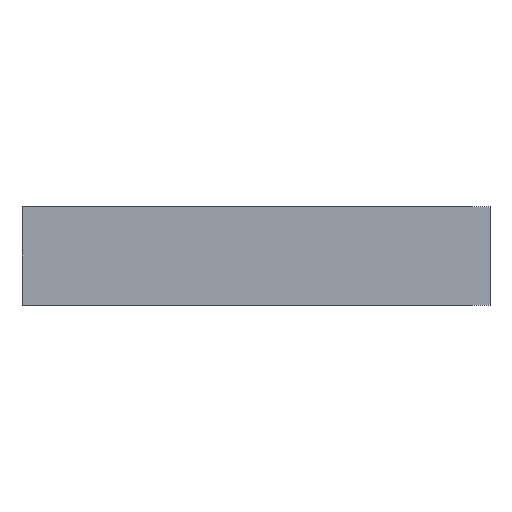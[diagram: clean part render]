
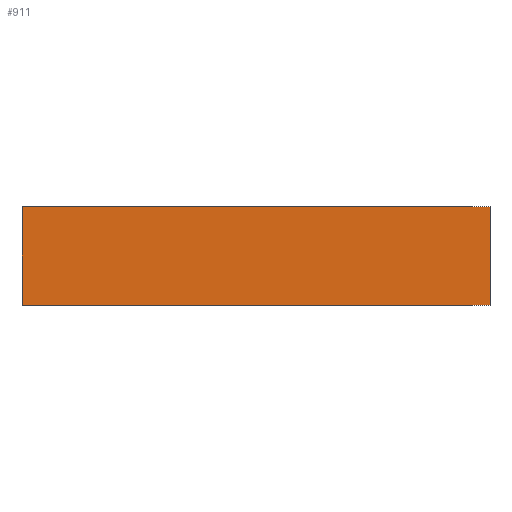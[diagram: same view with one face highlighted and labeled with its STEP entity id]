
A CAD part, front view. The second image highlights one B-rep face of the part: STEP entity #911.
In plain terms, the highlighted planar face has unit normal (0, -1, 0).
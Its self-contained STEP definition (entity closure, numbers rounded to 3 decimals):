
#103 = VECTOR ( 'NONE', #966, 1000. ) ;
#108 = LINE ( 'NONE', #963, #103 ) ;
#112 = VECTOR ( 'NONE', #956, 1000. ) ;
#113 = LINE ( 'NONE', #955, #112 ) ;
#119 = VECTOR ( 'NONE', #950, 1000. ) ;
#124 = LINE ( 'NONE', #947, #119 ) ;
#139 = ORIENTED_EDGE ( 'NONE', *, *, #420, .F. ) ;
#229 = ORIENTED_EDGE ( 'NONE', *, *, #424, .F. ) ;
#351 = EDGE_LOOP ( 'NONE', ( #354, #139, #229, #384 ) ) ;
#354 = ORIENTED_EDGE ( 'NONE', *, *, #488, .T. ) ;
#384 = ORIENTED_EDGE ( 'NONE', *, *, #429, .T. ) ;
#420 = EDGE_CURVE ( 'NONE', #888, #892, #124, .T. ) ;
#424 = EDGE_CURVE ( 'NONE', #891, #888, #113, .T. ) ;
#429 = EDGE_CURVE ( 'NONE', #891, #885, #108, .T. ) ;
#488 = EDGE_CURVE ( 'NONE', #885, #892, #775, .T. ) ;
#531 = AXIS2_PLACEMENT_3D ( 'NONE', #591, #597, #598 ) ;
#588 = PLANE ( 'NONE',  #531 ) ;
#591 = CARTESIAN_POINT ( 'NONE',  ( -154., 0., 65. ) ) ;
#597 = DIRECTION ( 'NONE',  ( 0., 1., 0. ) ) ;
#598 = DIRECTION ( 'NONE',  ( -1., 0., 0. ) ) ;
#763 = FACE_OUTER_BOUND ( 'NONE', #351, .T. ) ;
#775 = LINE ( 'NONE', #1081, #783 ) ;
#783 = VECTOR ( 'NONE', #1082, 1000. ) ;
#885 = VERTEX_POINT ( 'NONE', #1201 ) ;
#888 = VERTEX_POINT ( 'NONE', #1204 ) ;
#891 = VERTEX_POINT ( 'NONE', #1207 ) ;
#892 = VERTEX_POINT ( 'NONE', #1208 ) ;
#911 = ADVANCED_FACE ( 'NONE', ( #763 ), #588, .F. ) ;
#947 = CARTESIAN_POINT ( 'NONE',  ( 154., 0., 65. ) ) ;
#950 = DIRECTION ( 'NONE',  ( 0., 0., -1. ) ) ;
#955 = CARTESIAN_POINT ( 'NONE',  ( -154., 0., 65. ) ) ;
#956 = DIRECTION ( 'NONE',  ( 1., 0., 0. ) ) ;
#963 = CARTESIAN_POINT ( 'NONE',  ( -154., 0., 65. ) ) ;
#966 = DIRECTION ( 'NONE',  ( 0., 0., -1. ) ) ;
#1081 = CARTESIAN_POINT ( 'NONE',  ( -154., 0., 0. ) ) ;
#1082 = DIRECTION ( 'NONE',  ( 1., 0., 0. ) ) ;
#1201 = CARTESIAN_POINT ( 'NONE',  ( -154., 0., 0. ) ) ;
#1204 = CARTESIAN_POINT ( 'NONE',  ( 154., 0., 65. ) ) ;
#1207 = CARTESIAN_POINT ( 'NONE',  ( -154., 0., 65. ) ) ;
#1208 = CARTESIAN_POINT ( 'NONE',  ( 154., 0., 0. ) ) ;
